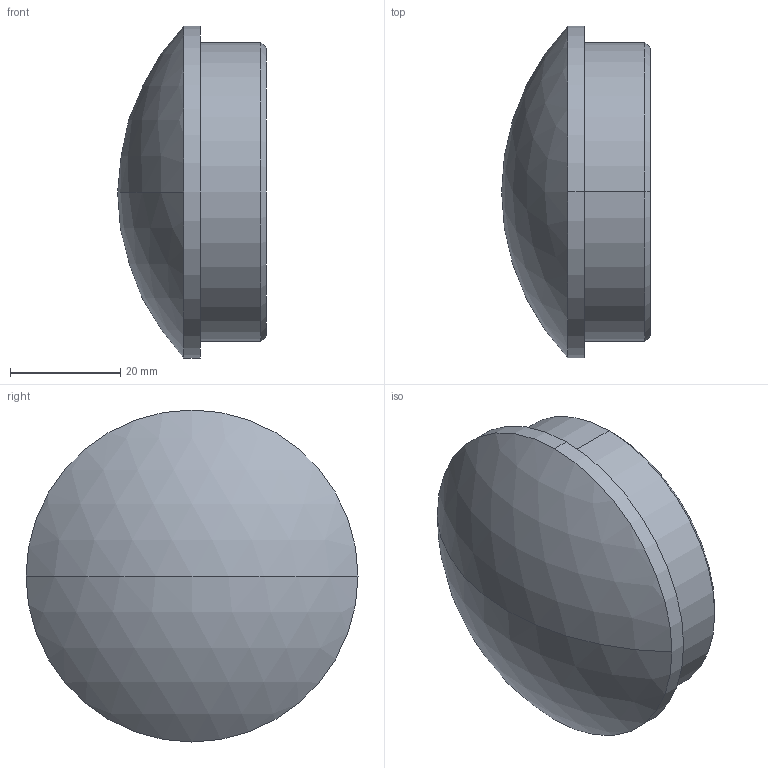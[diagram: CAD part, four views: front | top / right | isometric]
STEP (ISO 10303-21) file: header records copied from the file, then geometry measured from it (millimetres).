
FILE_DESCRIPTION (( 'STEP AP203' ), '1' );
FILE_NAME ('3D_GR1392_DN60.3x3_18380282.STEP', '2024-09-21T10:27:58', ( '' ), ( '' ), 'SwSTEP 2.0', 'SolidWorks 2024', '' );
FILE_SCHEMA (( 'CONFIG_CONTROL_DESIGN' ));
Length unit declared in the file: millimetre
Products named in the file (1): 3D_GR1392_DN60.3x3_18380282
Bounding box: 27 x 60.3 x 60.3 mm (x, y, z)
Volume: 54311.4 mm3; surface area: 8678.1 mm2
Topology: 1 solids, 1 shells, 10 faces, 20 edges, 13 vertices
Faces by surface type: cylinder 4, cone 2, sphere 2, plane 2
Entity records: 347 total; most frequent: DIRECTION 56, CARTESIAN_POINT 44, ORIENTED_EDGE 40, AXIS2_PLACEMENT_3D 25, EDGE_CURVE 20, CIRCLE 14, VERTEX_POINT 13, EDGE_LOOP 11
